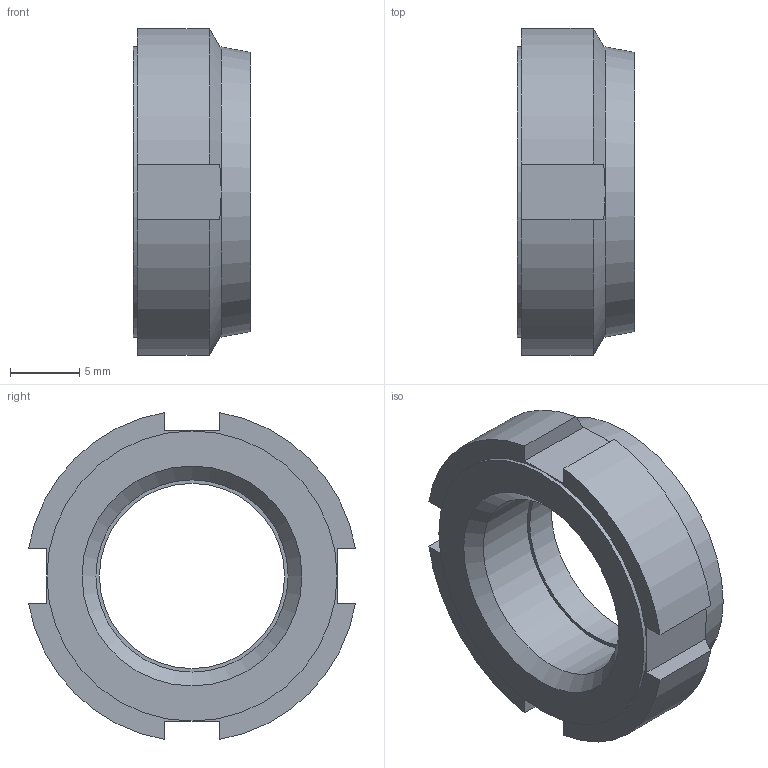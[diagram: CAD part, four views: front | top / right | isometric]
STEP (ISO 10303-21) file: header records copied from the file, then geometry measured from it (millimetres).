
FILE_DESCRIPTION( ( 'STEP AP203' ), '1' );
FILE_NAME( 'C:/Temp/Ganter_Step_05_03_2020/data/3_2/gn1804_1/Slotted locknut self-locking GN 1804.1-M15x1.stp', '2020-03-13T05:25:13', ( 'License CC BY-ND 4.0' ), ( 'CADENAS' ), ' ', 'PARTsolutions', ' ' );
FILE_SCHEMA( ( 'CONFIG_CONTROL_DESIGN' ) );
Length unit declared in the file: millimetre
Products named in the file (1): _Slotted locknut self-locking GN 1804.1-M15x1
Bounding box: 8.5 x 23.66 x 23.66 mm (x, y, z)
Volume: 2052.3 mm3; surface area: 1537.1 mm2
Topology: 1 solids, 1 shells, 34 faces, 79 edges, 49 vertices
Faces by surface type: plane 20, cylinder 8, cone 6
Full cylindrical faces by diameter (mm): 13.4 x1, 13.917 x1, 16 x1, 21 x1
Entity records: 1014 total; most frequent: CARTESIAN_POINT 225, DIRECTION 152, ORIENTED_EDGE 146, EDGE_CURVE 73, AXIS2_PLACEMENT_3D 60, VERTEX_POINT 49, EDGE_LOOP 44, FACE_OUTER_BOUND 38
